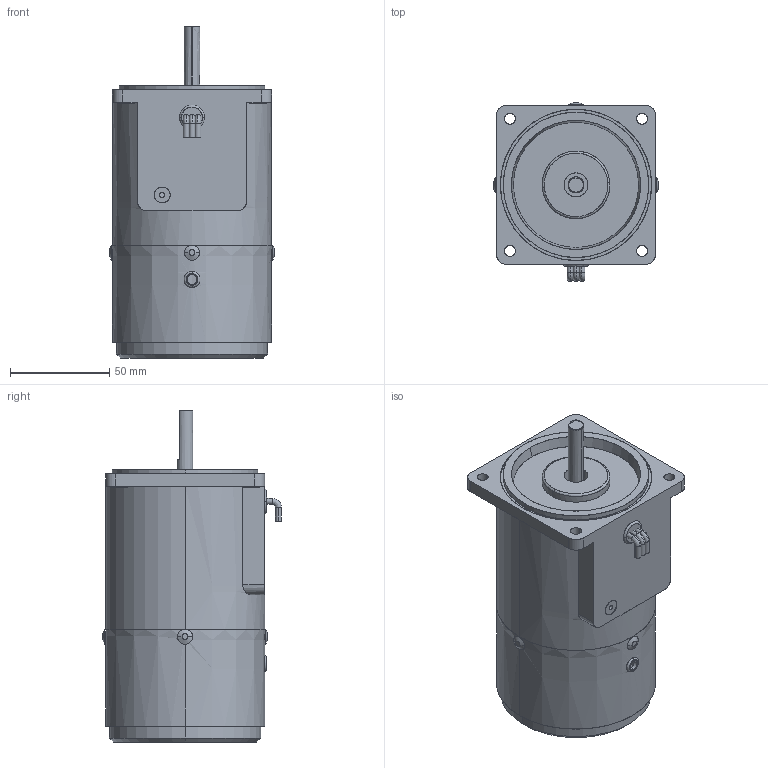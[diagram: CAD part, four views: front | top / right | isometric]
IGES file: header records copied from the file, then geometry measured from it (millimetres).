
Start section: SolidWorks IGES file using analytic representation for surfaces
Bounding box: 83 x 90 x 167 mm (x, y, z)
Surface area: 108388.8 mm2 (no closed solid volume)
Topology: 0 solids, 0 shells, 180 faces, 4521 edges, 4521 vertices
Faces by surface type: revolution 107, bspline 73
